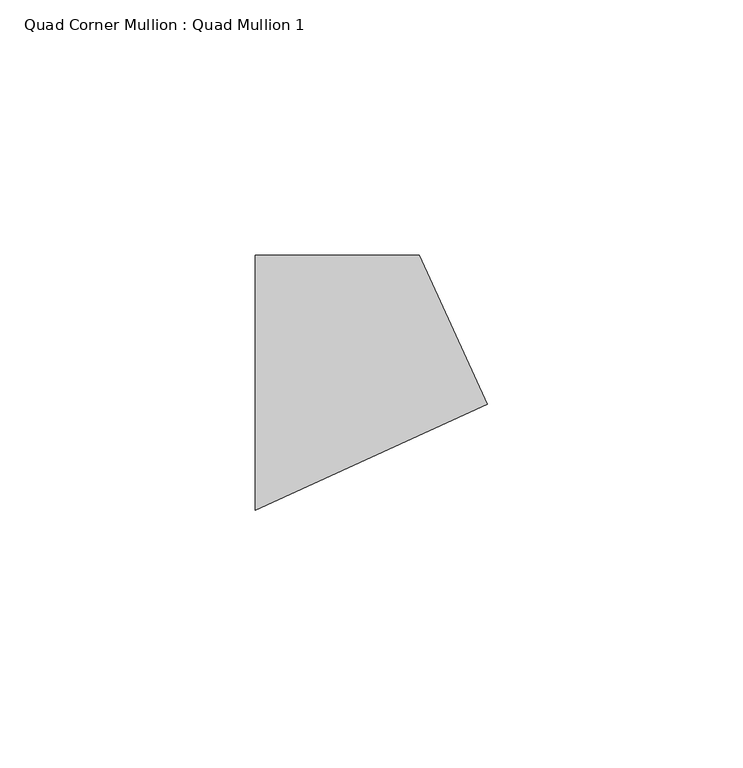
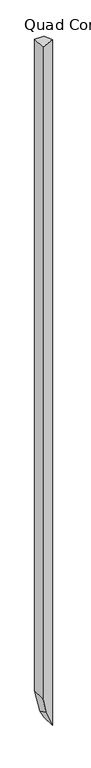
"""IFC4 building model written with IfcOpenShell, lengths in millimetres: member geometry, Quad Corner Mullion : Quad Mullion 1."""

from ifc_helpers import new_model, si_unit, origin, place, context, project, spatial, faceted_brep, source, transform, mapped, element, save


def quad_corner_mullion_quad_mullion_1_2e995ed4(model_context):
    return source(origin(), model_context, "Body", "Brep", [
        faceted_brep([(29.4125559, -4.1926582, 0.0), (16.0523154, 25.0, 0.0), (-16.0523154, 25.0, 0.0), (-16.0523154, -25.0, 0.0), (29.4125559, -4.1926582, -2535.6813837), (16.0523154, 25.0, -2518.0564099), (3.2328779, 25.0, -2492.5755573), (-16.0523154, 25.0, -2408.6190038), (-16.0523154, -25.0, -2408.6190038), (-2.4264727, -18.7640302, -2467.9380251)], [[[0, 1, 2, 3]], [[1, 0, 4, 5]], [[2, 1, 5, 6, 7]], [[3, 2, 7, 8]], [[0, 3, 8, 9, 4]], [[4, 9, 6, 5]], [[9, 8, 7, 6]]]),
    ])


if __name__ == "__main__":
    model = new_model("IFC4")
    model_context = context("Model", 3, world=origin())
    ifc_project = project(units=[si_unit("LENGTHUNIT", "METRE", prefix="MILLI")], contexts=[model_context])
    site = spatial("IfcSite", under=ifc_project)
    building = spatial("IfcBuilding", under=site)
    placement = place(None, origin())
    quad_corner_mullion_quad_mullion_1_shape = quad_corner_mullion_quad_mullion_1_2e995ed4(model_context)
    element("IfcMember", 1, ObjectType="Quad Corner Mullion : Quad Mullion 1", at=placement, inside=building, context=model_context, shape_type="MappedRepresentation", body=[
        mapped(quad_corner_mullion_quad_mullion_1_shape, transform((0.0, 0.0, 0.0), x_axis=(1.0, 0.0, 0.0), y_axis=(0.0, 1.0, 0.0), z_axis=(0.0, 0.0, 1.0))),
    ])
    save(model, "model.ifc")
